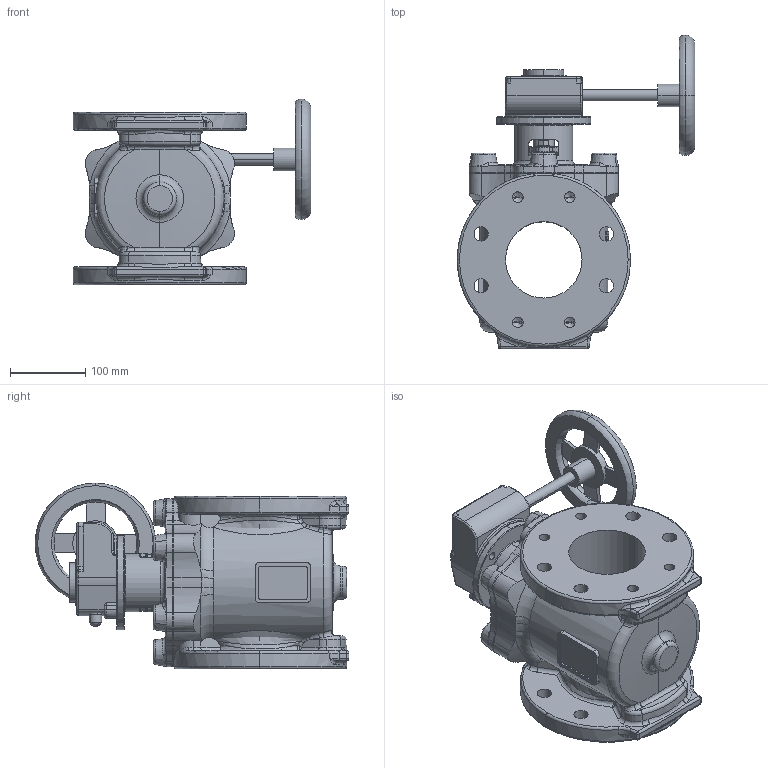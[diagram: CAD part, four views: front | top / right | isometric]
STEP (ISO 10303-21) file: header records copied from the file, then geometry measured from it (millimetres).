
FILE_DESCRIPTION (( 'STEP AP203' ), '1' );
FILE_NAME ('O_764_01_DN100_1XXXXXX020_REV01.step', '2021-02-01T09:27:47', ( '' ), ( '' ), 'SwSTEP 2.0', 'SolidWorks 2019', '' );
FILE_SCHEMA (( 'CONFIG_CONTROL_DESIGN' ));
Length unit declared in the file: millimetre
Products named in the file (1): O_764_01_DN100_1XXXXXX020_REV01
Bounding box: 315.49 x 416.49 x 246.5 mm (x, y, z)
Volume: 7285898.8 mm3; surface area: 529890.5 mm2
Topology: 1 solids, 1 shells, 886 faces, 2205 edges, 1306 vertices
Faces by surface type: cylinder 305, torus 202, plane 185, bspline 96, cone 80, sphere 18
Entity records: 36068 total; most frequent: CARTESIAN_POINT 15627, DIRECTION 4397, ORIENTED_EDGE 4300, EDGE_CURVE 2150, AXIS2_PLACEMENT_3D 1897, VERTEX_POINT 1306, CIRCLE 1106, EDGE_LOOP 968
